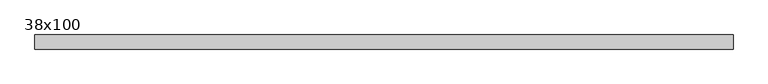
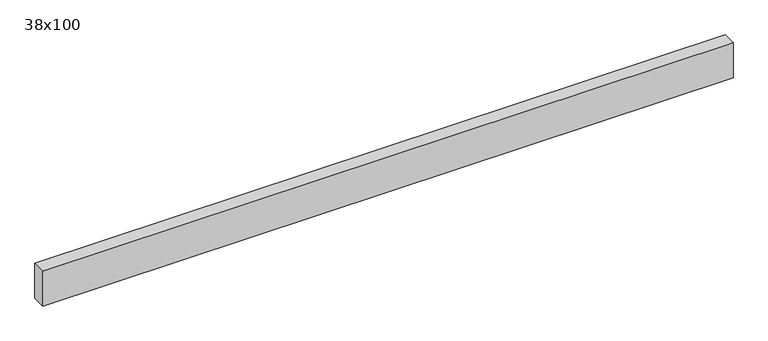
"""IFC4 building model written with IfcOpenShell, lengths in millimetres: beam geometry, Poutre - Bois de construction de dimensions courantes : 38x100."""

from ifc_helpers import new_model, si_unit, frame, origin, place, context, project, spatial, polyline, outline, extrude, source, transform, mapped, element, save


def beam_38x100_f93bc04f(model_context):
    return source(origin(), model_context, "Body", "SweptSolid", [
        extrude(outline(polyline([(935.0, 19.05), (935.0, -19.05), (-950.0, -19.05), (-950.0, 19.05), (935.0, 19.05)])), frame((0.0, 0.0, -50.0), z_axis=(0.0, 0.0, 1.0), x_axis=(1.0, 0.0, 0.0)), (0.0, 0.0, 1.0), 100.0),
    ])


if __name__ == "__main__":
    model = new_model("IFC4")
    model_context = context("Model", 3, world=origin())
    ifc_project = project(units=[si_unit("LENGTHUNIT", "METRE", prefix="MILLI")], contexts=[model_context])
    site = spatial("IfcSite", under=ifc_project)
    building = spatial("IfcBuilding", under=site)
    placement = place(None, origin())
    beam_38x100_shape = beam_38x100_f93bc04f(model_context)
    element("IfcBeam", 1, ObjectType="Poutre - Bois de construction de dimensions courantes : 38x100", at=placement, inside=building, context=model_context, shape_type="MappedRepresentation", body=[
        mapped(beam_38x100_shape, transform((0.0, 0.0, 0.0), x_axis=(1.0, 0.0, 0.0), y_axis=(0.0, 1.0, 0.0), z_axis=(0.0, 0.0, 1.0))),
    ])
    save(model, "model.ifc")
